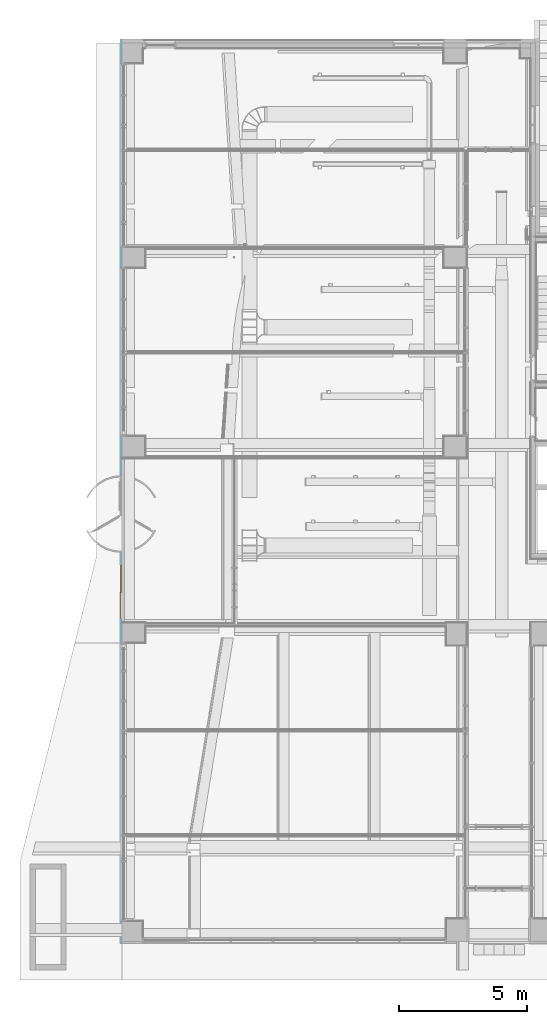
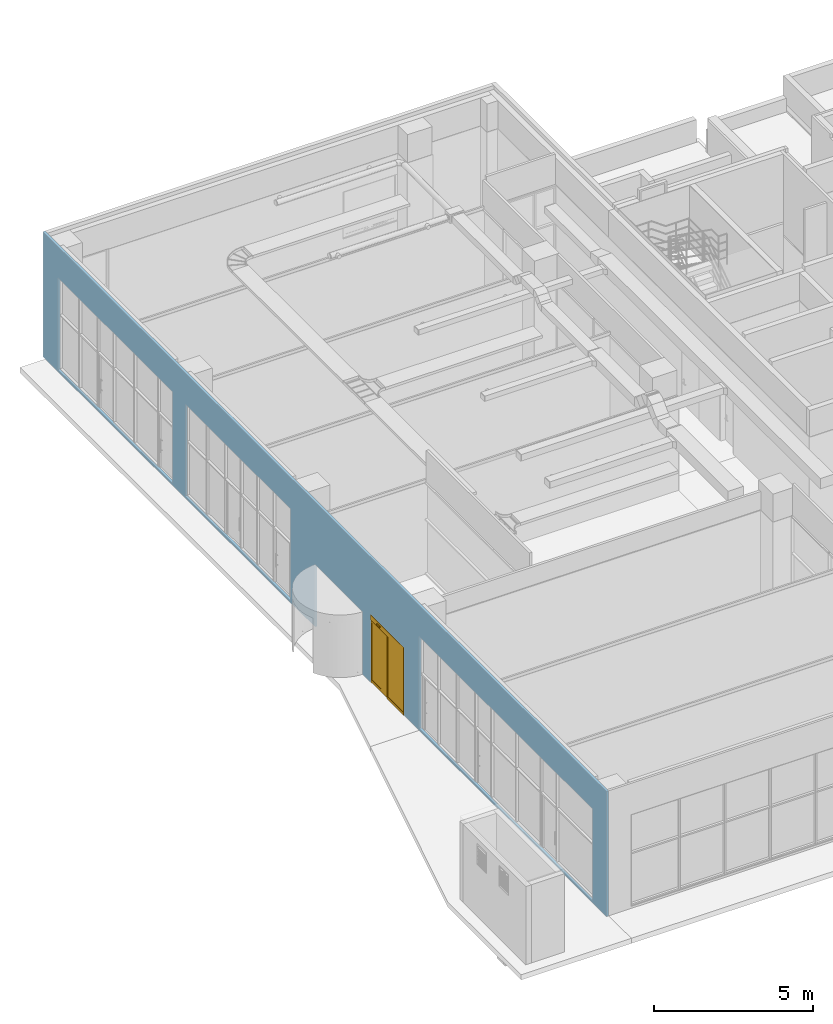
# One storey, part 67 of 100: 1 door, 5 openings, plus 1 element that does not belong to this part.
"""IFC2X3 building model written with IfcOpenShell, lengths in millimetres."""

from ifc_helpers import new_model, entity, si_unit, converted_unit, derived_unit, direction, frame, frame_2d, origin, place, context, subcontext, project, spatial, rectangle, extrude, faceted_brep, source, transform, mapped, material, material_list, layer, layer_set, layer_usage, type_object, type_shapes, element, fill, save


model = new_model("IFC2X3")

# Units and contexts
model_context = context("Model", 3, precision=0.01, world=origin(), true_north=direction((6.123031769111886e-17, 1.0)))
body_context = subcontext(model_context, "Body", "Model", "MODEL_VIEW")
ifc_project = project(units=[si_unit("LENGTHUNIT", "METRE", prefix="MILLI"), si_unit("AREAUNIT", "SQUARE_METRE"), si_unit("VOLUMEUNIT", "CUBIC_METRE"), converted_unit("PLANEANGLEUNIT", "DEGREE", entity("IfcRatioMeasure", 0.017453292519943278), si_unit("PLANEANGLEUNIT", "RADIAN"), dimensions=[0, 0, 0, 0, 0, 0, 0]), si_unit("MASSUNIT", "GRAM", prefix="KILO"), derived_unit("MASSDENSITYUNIT", [(si_unit("MASSUNIT", "GRAM", prefix="KILO"), 1), (si_unit("LENGTHUNIT", "METRE"), -3)]), derived_unit("MOMENTOFINERTIAUNIT", [(si_unit("LENGTHUNIT", "METRE"), 4)]), si_unit("TIMEUNIT", "SECOND"), si_unit("FREQUENCYUNIT", "HERTZ"), si_unit("THERMODYNAMICTEMPERATUREUNIT", "DEGREE_CELSIUS"), derived_unit("THERMALTRANSMITTANCEUNIT", [(si_unit("MASSUNIT", "GRAM", prefix="KILO"), 1), (si_unit("THERMODYNAMICTEMPERATUREUNIT", "KELVIN"), -1), (si_unit("TIMEUNIT", "SECOND"), -3)]), derived_unit("VOLUMETRICFLOWRATEUNIT", [(si_unit("LENGTHUNIT", "METRE"), 3), (si_unit("TIMEUNIT", "SECOND"), -1)]), derived_unit("MASSFLOWRATEUNIT", [(si_unit("MASSUNIT", "GRAM", prefix="KILO"), 1), (si_unit("TIMEUNIT", "SECOND"), -1)]), derived_unit("ROTATIONALFREQUENCYUNIT", [(si_unit("TIMEUNIT", "SECOND"), -1)]), si_unit("ELECTRICCURRENTUNIT", "AMPERE"), si_unit("ELECTRICVOLTAGEUNIT", "VOLT"), si_unit("POWERUNIT", "WATT"), si_unit("FORCEUNIT", "NEWTON", prefix="KILO"), si_unit("ILLUMINANCEUNIT", "LUX"), si_unit("LUMINOUSFLUXUNIT", "LUMEN"), si_unit("LUMINOUSINTENSITYUNIT", "CANDELA"), derived_unit("USERDEFINED", [(si_unit("MASSUNIT", "GRAM", prefix="KILO"), -1), (si_unit("LENGTHUNIT", "METRE"), -2), (si_unit("TIMEUNIT", "SECOND"), 3), (si_unit("LUMINOUSFLUXUNIT", "LUMEN"), 1)]), derived_unit("SOUNDPOWERUNIT", [(si_unit("MASSUNIT", "GRAM", prefix="KILO"), 1), (si_unit("LENGTHUNIT", "METRE"), 2), (si_unit("TIMEUNIT", "SECOND"), -3)]), derived_unit("SOUNDPRESSUREUNIT", [(si_unit("MASSUNIT", "GRAM", prefix="KILO"), 1), (si_unit("LENGTHUNIT", "METRE"), -1), (si_unit("TIMEUNIT", "SECOND"), -2)]), derived_unit("LINEARVELOCITYUNIT", [(si_unit("LENGTHUNIT", "METRE"), 1), (si_unit("TIMEUNIT", "SECOND"), -1)]), si_unit("PRESSUREUNIT", "PASCAL"), derived_unit("USERDEFINED", [(si_unit("LENGTHUNIT", "METRE"), -2), (si_unit("MASSUNIT", "GRAM", prefix="KILO"), 1), (si_unit("TIMEUNIT", "SECOND"), -2)]), derived_unit("LINEARFORCEUNIT", [(si_unit("MASSUNIT", "GRAM", prefix="KILO"), 1), (si_unit("LENGTHUNIT", "METRE"), 1), (si_unit("TIMEUNIT", "SECOND"), -2), (si_unit("LENGTHUNIT", "METRE"), -1)]), derived_unit("PLANARFORCEUNIT", [(si_unit("MASSUNIT", "GRAM", prefix="KILO"), 1), (si_unit("LENGTHUNIT", "METRE"), 1), (si_unit("TIMEUNIT", "SECOND"), -2), (si_unit("LENGTHUNIT", "METRE"), -2)])], contexts=[model_context])

# Site, building, storey
site_placement = place(None, frame((-14167.972527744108, -657.2125860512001, 0.0)))
site = spatial("IfcSite", under=ifc_project, at=site_placement, Name="Default", CompositionType="ELEMENT")
building_placement = place(site_placement, origin())
building = spatial("IfcBuilding", under=site, at=building_placement, Name="Sample Building", CompositionType="ELEMENT")
storey_placement = place(building_placement, origin())
storey = spatial("IfcBuildingStorey", under=building, at=storey_placement, Name="지상 1층", CompositionType="ELEMENT", Elevation=0.0)

# Wall, openings, door
ifc_material_1 = material(Name="KBIMS-화강석 잔다듬")
ifc_layer = layer(ifc_material_1, 80.0)
ifc_layer_set = layer_set([ifc_layer], Name="기본 벽:WA313-화강석잔다듬 벽 (30, 건식50) 80mm")
ifc_layer_usage = layer_usage(ifc_layer_set, "AXIS2", "POSITIVE", -40.0)
wall_type = type_object("IfcWallType", Name="기본 벽:WA313-화강석잔다듬 벽 (30, 건식50) 80mm", PredefinedType="STANDARD", material=ifc_layer_set)
wall_placement = place(storey_placement, frame((14027.955105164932, 35907.21229514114, 0.0), z_axis=(0.0, 0.0, 1.0), x_axis=(0.0, -1.0, 0.0)))
wall = element("IfcWallStandardCase", 1, at=wall_placement, inside=storey, type_object=wall_type, material=ifc_layer_usage, Name="기본 벽:WA313-화강석잔다듬 벽 (30, 건식50) 80mm", ObjectType="기본 벽:WA313-화강석잔다듬 벽 (30, 건식50) 80mm", context=body_context, shape_type="SweptSolid", body=[
    extrude(rectangle(XDim=35430.00009999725, YDim=79.99999999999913, at=frame_2d((17715.000049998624, 6.217248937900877e-13), x_axis=(1.0, 0.0))), origin(), (0.0, 0.0, 1.0), 4799.999998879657),
])
opening_1_placement = place(wall_placement, origin())
element("IfcOpeningElement", 2, at=opening_1_placement, cuts=wall, Name="기본 벽:WA313-화강석잔다듬 벽 (30, 건식50) 80mm", ObjectType="Opening", context=body_context, shape_type="SweptSolid", body=[
    extrude(rectangle(XDim=3520.000000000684, YDim=7200.017111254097, at=frame_2d((-1.1368683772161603e-13, 2.2737367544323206e-12), x_axis=(1.0, 0.0))), frame((4550.008570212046, -192.39999999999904, 1840.0), z_axis=(0.0, 1.0, 0.0), x_axis=(0.0, 0.0, 1.0)), (0.0, 0.0, 1.0), 384.79999999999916),
])
opening_2_placement = place(wall_placement, origin())
element("IfcOpeningElement", 3, at=opening_2_placement, cuts=wall, Name="기본 벽:WA313-화강석잔다듬 벽 (30, 건식50) 80mm", ObjectType="Opening", context=body_context, shape_type="SweptSolid", body=[
    extrude(rectangle(XDim=3520.000000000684, YDim=6600.000000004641, at=frame_2d((-1.1368683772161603e-13, 0.0), x_axis=(1.0, 0.0))), frame((12250.017403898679, -192.3999999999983, 1840.0), z_axis=(0.0, 1.0, 0.0), x_axis=(0.0, 0.0, 1.0)), (0.0, 0.0, 1.0), 384.79999999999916),
])
opening_3_placement = place(wall_placement, origin())
element("IfcOpeningElement", 4, at=opening_3_placement, cuts=wall, Name="기본 벽:WA313-화강석잔다듬 벽 (30, 건식50) 80mm", ObjectType="Opening", context=body_context, shape_type="SweptSolid", body=[
    extrude(rectangle(XDim=3520.000000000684, YDim=10899.983005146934, at=frame_2d((-1.1368683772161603e-13, 0.0), x_axis=(1.0, 0.0))), frame((29100.00890647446, -192.39999999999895, 1840.0), z_axis=(0.0, 1.0, 0.0), x_axis=(0.0, 0.0, 1.0)), (0.0, 0.0, 1.0), 384.79999999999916),
])
opening_4_placement = place(wall_placement, frame((17100.034670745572, -40.0, 0.0)))
element("IfcOpeningElement", 5, at=opening_4_placement, cuts=wall, Name="DR422-회전문(전동식, 스테인리스 스틸):DR422-회전문(전동식, 스테인리스 스틸) 3000x2400mm:1", ObjectType="Opening", context=body_context, shape_type="SweptSolid", body=[
    extrude(rectangle(XDim=2399.9999999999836, YDim=2999.9999999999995, at=frame_2d((1199.9999999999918, 1500.0), x_axis=(-1.0, 0.0))), frame((0.0, 0.0, 0.0), z_axis=(0.0, 1.0, 0.0), x_axis=(0.0, 0.0, 1.0)), (0.0, 0.0, 1.0), 80.0),
])
opening_5_placement = place(wall_placement, frame((20600.034670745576, -40.0, 0.0)))
opening_5 = element("IfcOpeningElement", 6, at=opening_5_placement, cuts=wall, Name="DR222-외미닫이 자동문(전동식) 2000X2600mm:DR222-외미닫이 자동문(전동식) 2000X2600mm:1", ObjectType="Opening", context=body_context, shape_type="SweptSolid", body=[
    extrude(rectangle(XDim=2600.0000000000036, YDim=2089.999999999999, at=frame_2d((1300.0000000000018, 1044.9999999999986), x_axis=(-1.0, 0.0))), frame((0.0, 0.0, 0.0), z_axis=(0.0, 1.0, 0.0), x_axis=(0.0, 0.0, 1.0)), (0.0, 0.0, 1.0), 80.0),
])
ifc_material_2 = material(Name="KBIMS-플라스틱_검은색")
ifc_material_3 = material(Name="KBIMS-유리")
ifc_material_4 = material(Name="<Unnamed>")
ifc_material_list_1 = material_list([ifc_material_2, ifc_material_3, ifc_material_2, ifc_material_2, ifc_material_2, ifc_material_4, ifc_material_3, ifc_material_4, ifc_material_4, ifc_material_4, ifc_material_4])
ifc_material_list_2 = material_list([ifc_material_2, ifc_material_3, ifc_material_2, ifc_material_2, ifc_material_2, ifc_material_4, ifc_material_3, ifc_material_4, ifc_material_4, ifc_material_4, ifc_material_4])
door_style = type_object("IfcDoorStyle", Name="DR222-외미닫이 자동문(전동식) 2000X2600mm:DR222-외미닫이 자동문(전동식) 2000X2600mm", ConstructionType="NOTDEFINED", OperationType="SLIDING_TO_LEFT", ParameterTakesPrecedence=False, Sizeable=False, material=ifc_material_list_2)
shared_shape = source(origin(), body_context, "Body", "Brep", [
    faceted_brep([(7.499999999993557, 10.0, 1200.0), (7.499999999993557, 10.0, 1000.0), (37.499999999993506, 10.0, 1000.0), (37.499999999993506, 10.0, 1200.0), (7.499999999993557, 15.0, 1200.0), (37.499999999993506, 15.0, 1200.0), (37.499999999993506, 15.0, 1000.0), (7.499999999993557, 15.0, 1000.0)], [[[0, 1, 2, 3]], [[4, 5, 6, 7]], [[0, 3, 5, 4]], [[3, 2, 6, 5]], [[2, 1, 7, 6]], [[1, 0, 4, 7]]]),
    faceted_brep([(1080.0, 50.0, 2300.0), (35.0, 50.0, 2300.0), (35.0, 30.0, 2300.0), (1080.0, 30.0, 2300.0), (1080.0, 50.0, 100.0), (1080.0, 30.0, 100.0), (35.0, 30.0, 100.0), (35.0, 50.0, 100.0)], [[[0, 1, 2, 3]], [[4, 5, 6, 7]], [[1, 0, 4, 7]], [[2, 1, 7, 6]], [[3, 2, 6, 5]], [[0, 3, 5, 4]]]),
    faceted_brep([(422.49999999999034, 85.0, 2525.0), (622.4999999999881, 85.0, 2525.0), (622.4999999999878, 85.0, 2475.0), (422.49999999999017, 85.0, 2475.0), (422.49999999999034, 65.0, 2525.0), (422.49999999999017, 65.0, 2475.0), (622.4999999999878, 65.0, 2475.0), (622.4999999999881, 65.0, 2525.0)], [[[0, 1, 2, 3]], [[4, 5, 6, 7]], [[1, 0, 4, 7]], [[2, 1, 7, 6]], [[3, 2, 6, 5]], [[0, 3, 5, 4]]]),
    faceted_brep([(622.4999999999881, -30.0, 2525.0), (422.49999999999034, -30.0, 2525.0), (422.49999999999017, -30.0, 2475.0), (622.4999999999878, -30.0, 2475.0), (622.4999999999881, -10.0, 2525.0), (622.4999999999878, -10.0, 2475.0), (422.49999999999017, -10.0, 2475.0), (422.49999999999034, -10.0, 2525.0)], [[[0, 1, 2, 3]], [[4, 5, 6, 7]], [[1, 0, 4, 7]], [[2, 1, 7, 6]], [[3, 2, 6, 5]], [[0, 3, 5, 4]]]),
    faceted_brep([(7.499999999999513, 70.0, 1200.0), (37.49999999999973, 70.0, 1200.0), (37.49999999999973, 70.0, 1000.0), (7.499999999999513, 70.0, 1000.0), (7.499999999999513, 65.0, 1200.0), (7.499999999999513, 65.0, 1000.0), (37.49999999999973, 65.0, 1000.0), (37.49999999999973, 65.0, 1200.0)], [[[0, 1, 2, 3]], [[4, 5, 6, 7]], [[1, 0, 4, 7]], [[2, 1, 7, 6]], [[3, 2, 6, 5]], [[0, 3, 5, 4]]]),
    faceted_brep([(2090.0, 65.0, 2600.0), (0.0, 65.0, 2600.0), (0.0, -10.0, 2600.0), (2090.0, -10.0, 2600.0), (2090.0, 65.0, 2400.0), (2090.0, -10.0, 2400.0), (0.0, -10.0, 2400.0), (0.0, 65.0, 2400.0)], [[[0, 1, 2, 3]], [[4, 5, 6, 7]], [[1, 0, 4, 7]], [[2, 1, 7, 6]], [[3, 2, 6, 5]], [[0, 3, 5, 4]]]),
    faceted_brep([(2055.0, 12.500000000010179, 2400.0), (1080.0, 12.500000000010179, 2400.0), (1080.0, -2.499999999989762, 2400.0), (2055.0, -2.499999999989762, 2400.0), (2055.0, 12.500000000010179, 100.0), (2055.0, -2.499999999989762, 100.0), (1080.0, -2.499999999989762, 100.0), (1080.0, 12.500000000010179, 100.0)], [[[0, 1, 2, 3]], [[4, 5, 6, 7]], [[1, 0, 4, 7]], [[2, 1, 7, 6]], [[3, 2, 6, 5]], [[0, 3, 5, 4]]]),
    faceted_brep([(45.0, 65.0, 2400.0), (0.0, 65.0, 2400.0), (0.0, 15.0, 2400.0), (45.0, 15.0, 2400.0), (45.0, 23.0, 2400.0), (35.0, 23.0, 2400.0), (35.0, 57.0, 2400.0), (45.0, 57.0, 2400.0), (45.0, 65.0, 0.0), (0.0, 65.0, 0.0), (0.0, 15.0, 0.0), (45.0, 15.0, 0.0), (45.0, 23.0, 0.0), (35.0, 23.0, 0.0), (35.0, 57.0, 0.0), (45.0, 57.0, 0.0)], [[[0, 1, 2, 3, 4, 5, 6, 7]], [[1, 0, 8, 9]], [[2, 1, 9, 10]], [[3, 2, 10, 11]], [[4, 3, 11, 12]], [[5, 4, 12, 13]], [[6, 5, 13, 14]], [[7, 6, 14, 15]], [[0, 7, 15, 8]], [[8, 15, 14, 13, 12, 11, 10, 9]]]),
    faceted_brep([(2090.0, 20.0, 0.0), (2090.0, -10.0, 0.0), (1045.0, -10.0, 0.0), (1045.0, 20.0, 0.0), (2045.0, 12.500000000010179, 2400.0), (2045.0, 20.0, 2400.0), (2045.0, 20.0, 100.0), (2045.0, 12.500000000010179, 100.0), (2055.0, 12.500000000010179, 2400.0), (2055.0, 12.500000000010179, 100.0), (2055.0, -2.4999999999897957, 2400.0), (2055.0, -2.4999999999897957, 100.0), (2045.0, -2.4999999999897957, 2400.0), (2045.0, -2.4999999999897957, 100.0), (2045.0, -10.0, 2400.0), (2045.0, -10.0, 100.0), (2090.0, -10.0, 2400.0), (1090.0, -10.0, 100.0), (1090.0, -10.0, 2400.0), (1045.0, -10.0, 2400.0), (2090.0, 20.0, 2400.0), (1045.0, 20.0, 2400.0), (1090.0, 20.0, 2400.0), (1090.0, 20.0, 100.0), (1090.0, -2.4999999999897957, 2400.0), (1090.0, -2.4999999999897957, 100.0), (1080.0, -2.4999999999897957, 2400.0), (1080.0, -2.4999999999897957, 100.0), (1080.0, 12.500000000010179, 2400.0), (1080.0, 12.500000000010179, 100.0), (1090.0, 12.500000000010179, 2400.0), (1090.0, 12.500000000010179, 100.0)], [[[0, 1, 2, 3]], [[4, 5, 6, 7]], [[8, 4, 7, 9]], [[10, 8, 9, 11]], [[12, 10, 11, 13]], [[14, 12, 13, 15]], [[16, 14, 15, 17, 18, 19, 2, 1]], [[0, 20, 16, 1]], [[5, 20, 0, 3, 21, 22, 23, 6]], [[2, 19, 21, 3]], [[24, 18, 17, 25]], [[26, 24, 25, 27]], [[28, 26, 27, 29]], [[30, 28, 29, 31]], [[22, 30, 31, 23]], [[6, 23, 31, 29, 27, 25, 17, 15, 13, 11, 9, 7]], [[22, 21, 19, 18, 24, 26, 28, 30]], [[5, 4, 8, 10, 12, 14, 16, 20]]]),
    faceted_brep([(1080.0, 55.0, 2400.0), (35.0, 55.0, 2400.0), (35.0, 25.0, 2400.0), (1080.0, 25.0, 2400.0), (1080.0, 55.0, 2300.0), (1080.0, 25.0, 2300.0), (35.0, 25.0, 2300.0), (35.0, 55.0, 2300.0)], [[[0, 1, 2, 3]], [[4, 5, 6, 7]], [[1, 0, 4, 7]], [[2, 1, 7, 6]], [[3, 2, 6, 5]], [[0, 3, 5, 4]]]),
    faceted_brep([(1080.0, 55.0, 100.0), (35.0, 55.0, 100.0), (35.0, 25.0, 100.0), (1080.0, 25.0, 100.0), (1080.0, 55.0, 0.0), (1080.0, 25.0, 0.0), (35.0, 25.0, 0.0), (35.0, 55.0, 0.0)], [[[0, 1, 2, 3]], [[4, 5, 6, 7]], [[1, 0, 4, 7]], [[2, 1, 7, 6]], [[3, 2, 6, 5]], [[0, 3, 5, 4]]]),
])
type_shapes(door_style, [shared_shape])
door_placement = place(opening_5_placement, origin())
door = element("IfcDoor", 7, at=door_placement, inside=storey, type_object=door_style, material=ifc_material_list_1, Name="DR222-외미닫이 자동문(전동식) 2000X2600mm:DR222-외미닫이 자동문(전동식) 2000X2600mm", ObjectType="DR222-외미닫이 자동문(전동식) 2000X2600mm:DR222-외미닫이 자동문(전동식) 2000X2600mm", OverallHeight=2600.0000000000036, OverallWidth=2089.999999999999, context=body_context, shape_type="MappedRepresentation", body=[
    mapped(shared_shape, transform((0.0, 0.0, 0.0), scale=1.0)),
])
fill(opening_5, door)

save(model, "model.ifc")
